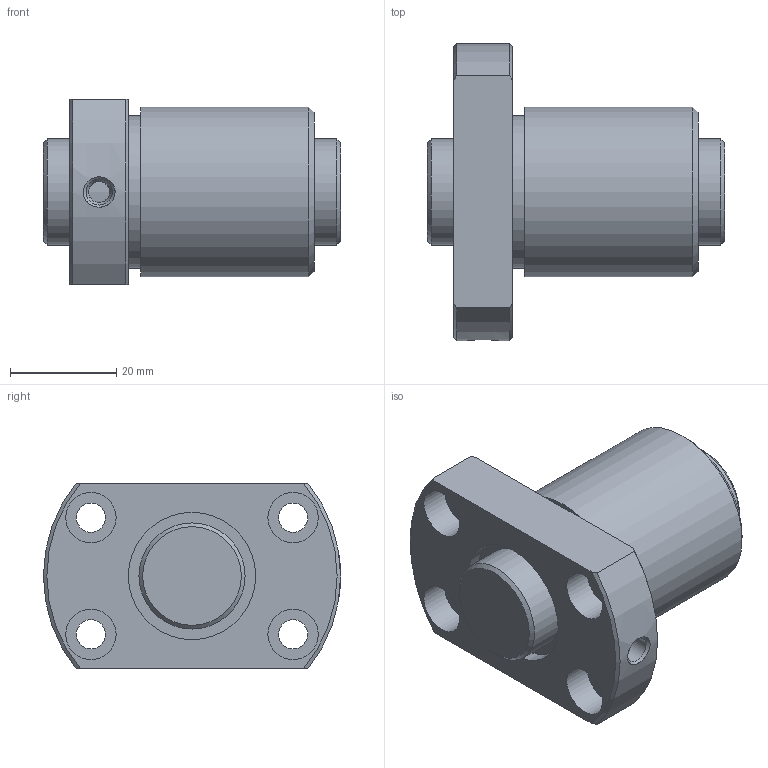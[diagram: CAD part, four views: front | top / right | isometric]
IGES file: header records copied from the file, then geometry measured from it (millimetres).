
Start section: Data from Parasolid IGES Translator 26.0.171, Copyright(c) 2006 Siemens PLM Software. All Rights Reserved.
Global section: file name: DK2004-4RRG1+56LC0_000.igs; native system: By Siemens PLM Incorporated; preprocessor: XPlus GENERIC/IGES 26.0.171; author: Noname; organization: Noname; date: 20250113.090810; units: millimetre
Bounding box: 56 x 56 x 35 mm (x, y, z)
Surface area: 16608.5 mm2 (no closed solid volume)
Topology: 0 solids, 0 shells, 41 faces, 166 edges, 132 vertices
Faces by surface type: revolution 27, extrusion 14
